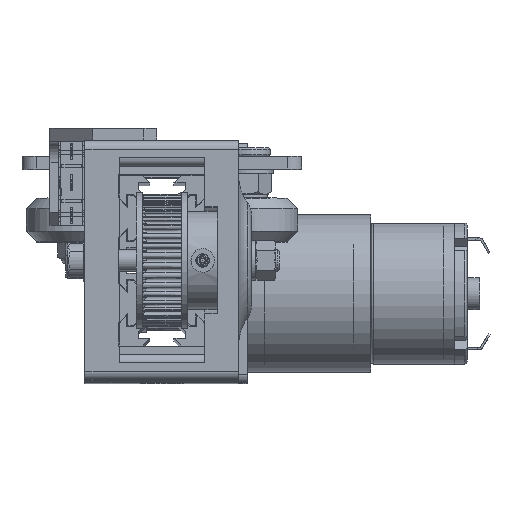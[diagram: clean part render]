
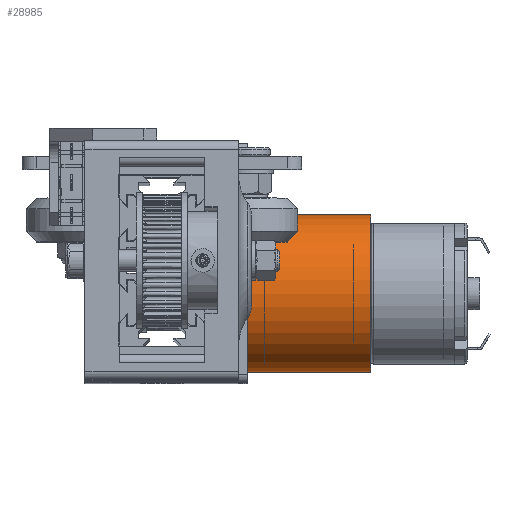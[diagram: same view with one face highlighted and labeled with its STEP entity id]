
A CAD part, top view. The second image highlights one B-rep face of the part: STEP entity #28985.
In plain terms, the highlighted cylindrical face has radius 18.5 mm (diameter 37 mm), a full revolution.
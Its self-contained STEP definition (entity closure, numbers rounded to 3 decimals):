
#1950=CYLINDRICAL_SURFACE('',#31783,18.5);
#2970=CIRCLE('',#31784,18.5);
#2971=CIRCLE('',#31785,18.5);
#4158=FACE_OUTER_BOUND('',#5856,.T.);
#5856=EDGE_LOOP('',(#22126,#22127,#22128,#22129));
#7991=LINE('',#45253,#10661);
#10661=VECTOR('',#36447,18.5);
#13354=VERTEX_POINT('',#45250);
#13355=VERTEX_POINT('',#45252);
#16571=EDGE_CURVE('',#13354,#13354,#2970,.T.);
#16572=EDGE_CURVE('',#13354,#13355,#7991,.T.);
#16573=EDGE_CURVE('',#13355,#13355,#2971,.T.);
#22126=ORIENTED_EDGE('',*,*,#16571,.F.);
#22127=ORIENTED_EDGE('',*,*,#16572,.T.);
#22128=ORIENTED_EDGE('',*,*,#16573,.T.);
#22129=ORIENTED_EDGE('',*,*,#16572,.F.);
#28985=ADVANCED_FACE('',(#4158),#1950,.T.);
#31783=AXIS2_PLACEMENT_3D('',#45249,#36443,#36444);
#31784=AXIS2_PLACEMENT_3D('',#45251,#36445,#36446);
#31785=AXIS2_PLACEMENT_3D('',#45254,#36448,#36449);
#36443=DIRECTION('center_axis',(0.,0.,1.));
#36444=DIRECTION('ref_axis',(1.,0.,0.));
#36445=DIRECTION('center_axis',(0.,0.,1.));
#36446=DIRECTION('ref_axis',(1.,0.,0.));
#36447=DIRECTION('',(0.,0.,-1.));
#36448=DIRECTION('center_axis',(0.,0.,1.));
#36449=DIRECTION('ref_axis',(1.,0.,0.));
#45249=CARTESIAN_POINT('Origin',(0.,0.,-29.));
#45250=CARTESIAN_POINT('',(-18.5,0.,0.));
#45251=CARTESIAN_POINT('Origin',(0.,0.,0.));
#45252=CARTESIAN_POINT('',(-18.5,0.,-29.));
#45253=CARTESIAN_POINT('',(-18.5,0.,-29.));
#45254=CARTESIAN_POINT('Origin',(0.,0.,-29.));
